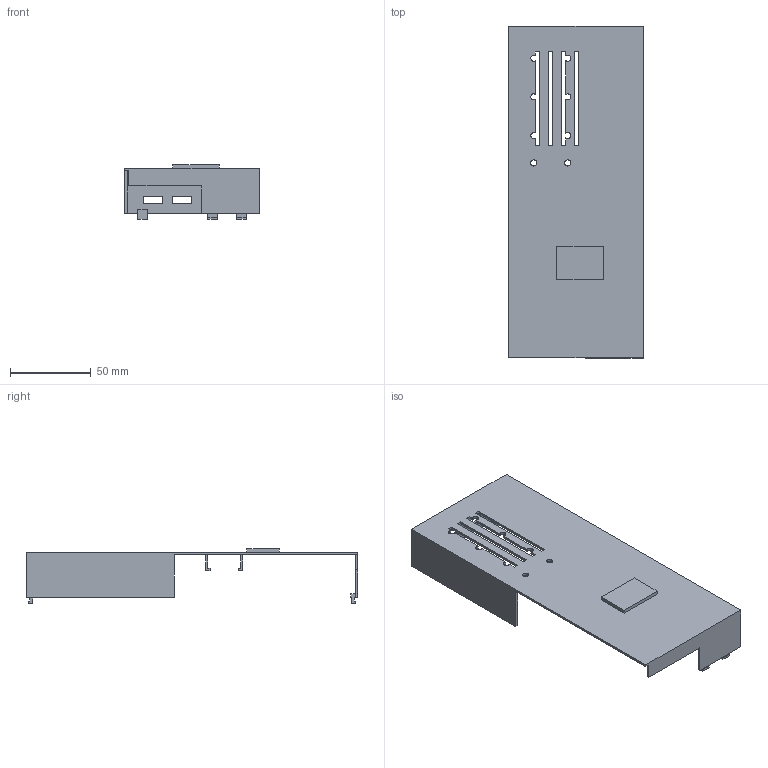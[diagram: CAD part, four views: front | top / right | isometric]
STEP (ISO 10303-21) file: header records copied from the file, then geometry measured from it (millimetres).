
FILE_DESCRIPTION(('Open CASCADE Model'),'2;1');
FILE_NAME('Open CASCADE Shape Model','2026-11-19T19:55:44',('Author'),( 'Open CASCADE'),'Open CASCADE STEP processor 8.0','Open CASCADE 8.0' ,'Unknown');
FILE_SCHEMA(('AUTOMOTIVE_DESIGN { 1 0 10303 214 1 1 1 1 }'));
Length unit declared in the file: millimetre
Products named in the file (1): Open CASCADE STEP translator 8.0 1
Bounding box: 83.35 x 206 x 33.9 mm (x, y, z)
Volume: 34516.7 mm3; surface area: 47935.9 mm2
Topology: 1 solids, 1 shells, 152 faces, 426 edges, 286 vertices
Faces by surface type: plane 144, cylinder 8
Full cylindrical faces by diameter (mm): 3.8 x2
Entity records: 10152 total; most frequent: CARTESIAN_POINT 2072, DIRECTION 1306, LINE 945, VECTOR 945, ORIENTED_EDGE 852, PCURVE 852, DEFINITIONAL_REPRESENTATION 852, EDGE_CURVE 426
